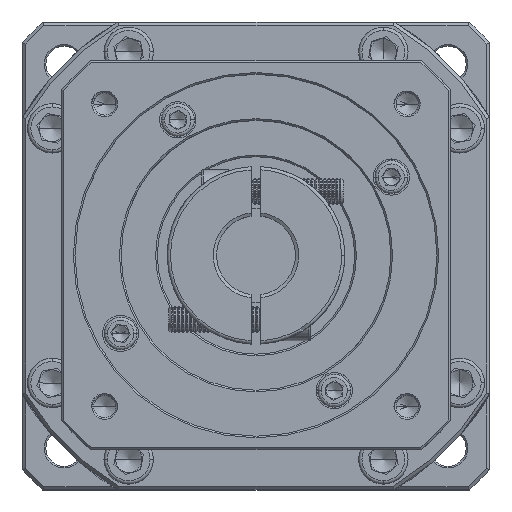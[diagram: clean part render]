
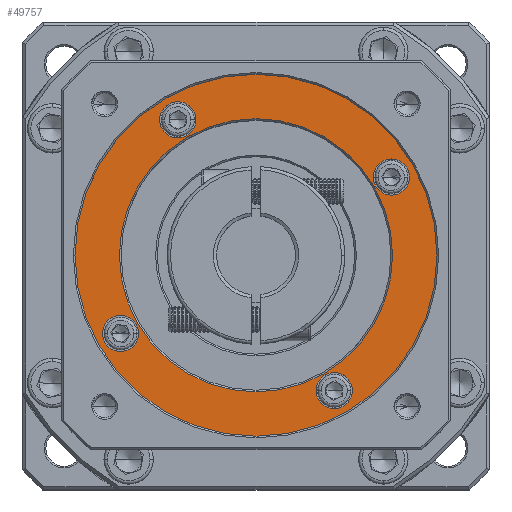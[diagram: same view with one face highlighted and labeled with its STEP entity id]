
A CAD part, top view. The second image highlights one B-rep face of the part: STEP entity #49757.
In plain terms, the highlighted planar face has unit normal (0, 0, 1).
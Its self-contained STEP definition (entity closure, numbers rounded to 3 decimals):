
#1083 = DIRECTION ( 'NONE',  ( 1., 0., 0. ) ) ;
#1424 = EDGE_CURVE ( 'NONE', #24835, #127672, #56718, .T. ) ;
#2026 = AXIS2_PLACEMENT_3D ( 'NONE', #110939, #30511, #22218 ) ;
#3038 = AXIS2_PLACEMENT_3D ( 'NONE', #54795, #45692, #55637 ) ;
#3309 = DIRECTION ( 'NONE',  ( 1., 0., 0. ) ) ;
#4019 = CIRCLE ( 'NONE', #92842, 5.5 ) ;
#4416 = DIRECTION ( 'NONE',  ( 1., 0., 0. ) ) ;
#5839 = ORIENTED_EDGE ( 'NONE', *, *, #89492, .T. ) ;
#10826 = DIRECTION ( 'NONE',  ( 0., -1., 0. ) ) ;
#11024 = CARTESIAN_POINT ( 'NONE',  ( -95.532, -16.635, 50.541 ) ) ;
#11423 = ORIENTED_EDGE ( 'NONE', *, *, #118596, .T. ) ;
#11853 = EDGE_CURVE ( 'NONE', #46661, #66344, #45825, .T. ) ;
#12200 = ORIENTED_EDGE ( 'NONE', *, *, #70389, .T. ) ;
#12246 = EDGE_CURVE ( 'NONE', #58392, #94165, #26852, .T. ) ;
#14474 = FACE_BOUND ( 'NONE', #81752, .T. ) ;
#16569 = ORIENTED_EDGE ( 'NONE', *, *, #81206, .T. ) ;
#17413 = AXIS2_PLACEMENT_3D ( 'NONE', #42910, #112435, #81278 ) ;
#18513 = AXIS2_PLACEMENT_3D ( 'NONE', #53591, #23123, #4416 ) ;
#18824 = CARTESIAN_POINT ( 'NONE',  ( -69.782, 24.501, 50.541 ) ) ;
#19665 = CARTESIAN_POINT ( 'NONE',  ( -165.918, 0.751, 50.541 ) ) ;
#20504 = DIRECTION ( 'NONE',  ( 1., 0., 0. ) ) ;
#22218 = DIRECTION ( 'NONE',  ( 1., 0., 0. ) ) ;
#23123 = DIRECTION ( 'NONE',  ( 0., 0., -1. ) ) ;
#23992 = AXIS2_PLACEMENT_3D ( 'NONE', #62552, #101272, #3309 ) ;
#24835 = VERTEX_POINT ( 'NONE', #28482 ) ;
#26852 = CIRCLE ( 'NONE', #119543, 41.5 ) ;
#28482 = CARTESIAN_POINT ( 'NONE',  ( -143.032, 65.637, 50.541 ) ) ;
#29113 = EDGE_LOOP ( 'NONE', ( #40321, #11423 ) ) ;
#29126 = ORIENTED_EDGE ( 'NONE', *, *, #50835, .T. ) ;
#29898 = DIRECTION ( 'NONE',  ( 0., 0., -1. ) ) ;
#30511 = DIRECTION ( 'NONE',  ( 0., 0., -1. ) ) ;
#30695 = DIRECTION ( 'NONE',  ( 0., 0., -1. ) ) ;
#32076 = AXIS2_PLACEMENT_3D ( 'NONE', #72703, #41390, #81052 ) ;
#35429 = VERTEX_POINT ( 'NONE', #120601 ) ;
#36341 = FACE_BOUND ( 'NONE', #29113, .T. ) ;
#36999 = CARTESIAN_POINT ( 'NONE',  ( -179.782, 24.501, 50.541 ) ) ;
#40321 = ORIENTED_EDGE ( 'NONE', *, *, #11853, .T. ) ;
#40549 = ORIENTED_EDGE ( 'NONE', *, *, #82701, .T. ) ;
#41262 = VERTEX_POINT ( 'NONE', #18824 ) ;
#41390 = DIRECTION ( 'NONE',  ( 0., 0., 1. ) ) ;
#41719 = CARTESIAN_POINT ( 'NONE',  ( -124.782, 24.501, 50.541 ) ) ;
#42910 = CARTESIAN_POINT ( 'NONE',  ( -124.782, 24.501, 50.541 ) ) ;
#45692 = DIRECTION ( 'NONE',  ( 0., 0., 1. ) ) ;
#45825 = CIRCLE ( 'NONE', #2026, 5.5 ) ;
#46661 = VERTEX_POINT ( 'NONE', #107753 ) ;
#47950 = CARTESIAN_POINT ( 'NONE',  ( -165.918, 0.751, 50.541 ) ) ;
#49427 = CARTESIAN_POINT ( 'NONE',  ( -148.532, 65.637, 50.541 ) ) ;
#49757 = ADVANCED_FACE ( 'NONE', ( #50323, #14474, #36341, #78363, #61187, #79996 ), #101431, .T. ) ;
#50323 = FACE_OUTER_BOUND ( 'NONE', #76731, .T. ) ;
#50835 = EDGE_CURVE ( 'NONE', #94165, #58392, #108737, .T. ) ;
#51983 = DIRECTION ( 'NONE',  ( 1., 0., 0. ) ) ;
#53591 = CARTESIAN_POINT ( 'NONE',  ( -83.646, 48.251, 50.541 ) ) ;
#54795 = CARTESIAN_POINT ( 'NONE',  ( -124.782, 24.501, 50.541 ) ) ;
#55637 = DIRECTION ( 'NONE',  ( 1., 0., 0. ) ) ;
#56718 = CIRCLE ( 'NONE', #23992, 5.5 ) ;
#57381 = CIRCLE ( 'NONE', #114294, 5.5 ) ;
#57595 = ORIENTED_EDGE ( 'NONE', *, *, #12246, .T. ) ;
#58302 = CIRCLE ( 'NONE', #90534, 5.5 ) ;
#58392 = VERTEX_POINT ( 'NONE', #68112 ) ;
#59511 = AXIS2_PLACEMENT_3D ( 'NONE', #19665, #81069, #20504 ) ;
#61187 = FACE_BOUND ( 'NONE', #78459, .T. ) ;
#62552 = CARTESIAN_POINT ( 'NONE',  ( -148.532, 65.637, 50.541 ) ) ;
#64576 = CARTESIAN_POINT ( 'NONE',  ( -89.146, 48.251, 50.541 ) ) ;
#66344 = VERTEX_POINT ( 'NONE', #64576 ) ;
#67552 = CIRCLE ( 'NONE', #18513, 5.5 ) ;
#68112 = CARTESIAN_POINT ( 'NONE',  ( -124.782, -16.999, 50.541 ) ) ;
#70389 = EDGE_CURVE ( 'NONE', #127672, #24835, #92641, .T. ) ;
#71067 = CIRCLE ( 'NONE', #3038, 55. ) ;
#72500 = ORIENTED_EDGE ( 'NONE', *, *, #92268, .T. ) ;
#72703 = CARTESIAN_POINT ( 'NONE',  ( -124.782, 24.501, 50.541 ) ) ;
#72759 = CARTESIAN_POINT ( 'NONE',  ( -171.418, 0.751, 50.541 ) ) ;
#76731 = EDGE_LOOP ( 'NONE', ( #5839, #106116 ) ) ;
#77127 = CIRCLE ( 'NONE', #17413, 55. ) ;
#78363 = FACE_BOUND ( 'NONE', #97840, .T. ) ;
#78459 = EDGE_LOOP ( 'NONE', ( #117622, #12200 ) ) ;
#79996 = FACE_BOUND ( 'NONE', #128048, .T. ) ;
#81052 = DIRECTION ( 'NONE',  ( 1., 0., 0. ) ) ;
#81069 = DIRECTION ( 'NONE',  ( 0., 0., -1. ) ) ;
#81206 = EDGE_CURVE ( 'NONE', #35429, #118595, #85225, .T. ) ;
#81278 = DIRECTION ( 'NONE',  ( 1., 0., 0. ) ) ;
#81447 = EDGE_CURVE ( 'NONE', #118595, #35429, #4019, .T. ) ;
#81752 = EDGE_LOOP ( 'NONE', ( #57595, #29126 ) ) ;
#82701 = EDGE_CURVE ( 'NONE', #87412, #107260, #58302, .T. ) ;
#83350 = DIRECTION ( 'NONE',  ( 0., 0., -1. ) ) ;
#85225 = CIRCLE ( 'NONE', #59511, 5.5 ) ;
#87412 = VERTEX_POINT ( 'NONE', #11024 ) ;
#89129 = AXIS2_PLACEMENT_3D ( 'NONE', #49427, #30695, #1083 ) ;
#89492 = EDGE_CURVE ( 'NONE', #41262, #118946, #71067, .T. ) ;
#89862 = EDGE_CURVE ( 'NONE', #118946, #41262, #77127, .T. ) ;
#90534 = AXIS2_PLACEMENT_3D ( 'NONE', #93341, #93764, #113261 ) ;
#92268 = EDGE_CURVE ( 'NONE', #107260, #87412, #57381, .T. ) ;
#92641 = CIRCLE ( 'NONE', #89129, 5.5 ) ;
#92842 = AXIS2_PLACEMENT_3D ( 'NONE', #47950, #117443, #107913 ) ;
#93341 = CARTESIAN_POINT ( 'NONE',  ( -101.032, -16.635, 50.541 ) ) ;
#93764 = DIRECTION ( 'NONE',  ( 0., 0., -1. ) ) ;
#94165 = VERTEX_POINT ( 'NONE', #121904 ) ;
#97840 = EDGE_LOOP ( 'NONE', ( #40549, #72500 ) ) ;
#98671 = CARTESIAN_POINT ( 'NONE',  ( -124.782, 24.501, 50.541 ) ) ;
#100897 = DIRECTION ( 'NONE',  ( 0., 0., -1. ) ) ;
#101272 = DIRECTION ( 'NONE',  ( 0., 0., -1. ) ) ;
#101431 = PLANE ( 'NONE',  #32076 ) ;
#101795 = CARTESIAN_POINT ( 'NONE',  ( -106.532, -16.635, 50.541 ) ) ;
#106116 = ORIENTED_EDGE ( 'NONE', *, *, #89862, .T. ) ;
#107260 = VERTEX_POINT ( 'NONE', #101795 ) ;
#107424 = AXIS2_PLACEMENT_3D ( 'NONE', #98671, #29898, #108619 ) ;
#107753 = CARTESIAN_POINT ( 'NONE',  ( -78.146, 48.251, 50.541 ) ) ;
#107913 = DIRECTION ( 'NONE',  ( 1., 0., 0. ) ) ;
#108619 = DIRECTION ( 'NONE',  ( 0., -1., 0. ) ) ;
#108737 = CIRCLE ( 'NONE', #107424, 41.5 ) ;
#110939 = CARTESIAN_POINT ( 'NONE',  ( -83.646, 48.251, 50.541 ) ) ;
#111105 = CARTESIAN_POINT ( 'NONE',  ( -101.032, -16.635, 50.541 ) ) ;
#112435 = DIRECTION ( 'NONE',  ( 0., 0., 1. ) ) ;
#113261 = DIRECTION ( 'NONE',  ( 1., 0., 0. ) ) ;
#114294 = AXIS2_PLACEMENT_3D ( 'NONE', #111105, #83350, #51983 ) ;
#114692 = ORIENTED_EDGE ( 'NONE', *, *, #81447, .T. ) ;
#117443 = DIRECTION ( 'NONE',  ( 0., 0., -1. ) ) ;
#117622 = ORIENTED_EDGE ( 'NONE', *, *, #1424, .T. ) ;
#118595 = VERTEX_POINT ( 'NONE', #72759 ) ;
#118596 = EDGE_CURVE ( 'NONE', #66344, #46661, #67552, .T. ) ;
#118946 = VERTEX_POINT ( 'NONE', #36999 ) ;
#119543 = AXIS2_PLACEMENT_3D ( 'NONE', #41719, #100897, #10826 ) ;
#120601 = CARTESIAN_POINT ( 'NONE',  ( -160.418, 0.751, 50.541 ) ) ;
#120815 = CARTESIAN_POINT ( 'NONE',  ( -154.032, 65.637, 50.541 ) ) ;
#121904 = CARTESIAN_POINT ( 'NONE',  ( -124.782, 66.001, 50.541 ) ) ;
#127672 = VERTEX_POINT ( 'NONE', #120815 ) ;
#128048 = EDGE_LOOP ( 'NONE', ( #16569, #114692 ) ) ;
